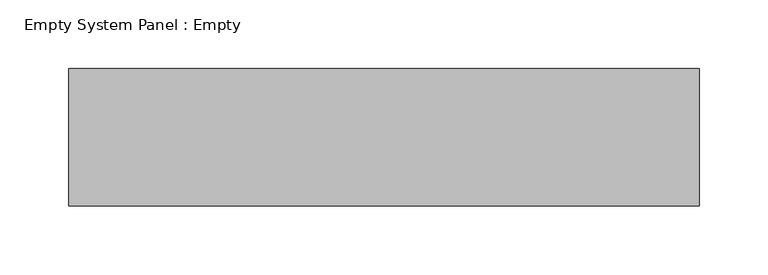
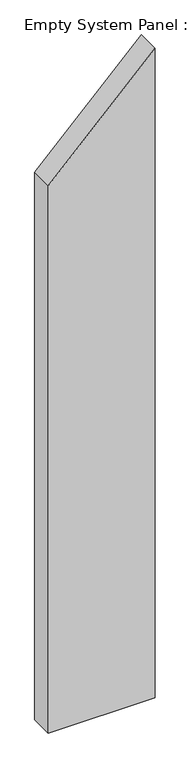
"""IFC4 building model written with IfcOpenShell, lengths in millimetres: plate geometry, Empty System Panel : Empty."""

from ifc_helpers import new_model, si_unit, frame, origin, place, context, project, spatial, polyline, outline, extrude, source, transform, mapped, element, save


def empty_system_panel_empty_4ea6a34b(model_context):
    return source(origin(), model_context, "Body", "SweptSolid", [
        extrude(outline(polyline([(0.0, -229.6046705), (0.0, 229.6046705), (2951.6556362, 229.6046705), (2487.3089272, -229.6046705), (0.0, -229.6046705)])), frame((0.0, -50.0, 0.0), z_axis=(0.0, 1.0, 0.0), x_axis=(0.0, 0.0, 1.0)), (0.0, 0.0, 1.0), 100.0),
    ])


if __name__ == "__main__":
    model = new_model("IFC4")
    model_context = context("Model", 3, world=origin())
    ifc_project = project(units=[si_unit("LENGTHUNIT", "METRE", prefix="MILLI")], contexts=[model_context])
    site = spatial("IfcSite", under=ifc_project)
    building = spatial("IfcBuilding", under=site)
    placement = place(None, origin())
    empty_system_panel_empty_shape = empty_system_panel_empty_4ea6a34b(model_context)
    element("IfcPlate", 1, ObjectType="Empty System Panel : Empty", at=placement, inside=building, context=model_context, shape_type="MappedRepresentation", body=[
        mapped(empty_system_panel_empty_shape, transform((0.0, 0.0, 0.0), x_axis=(1.0, 0.0, 0.0), y_axis=(0.0, 1.0, 0.0), z_axis=(0.0, 0.0, 1.0))),
    ])
    save(model, "model.ifc")
